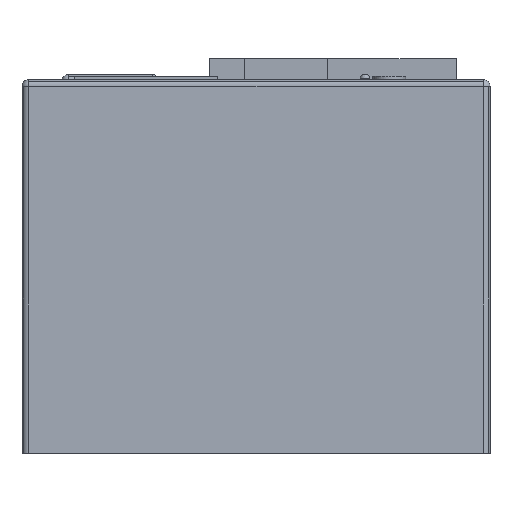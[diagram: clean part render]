
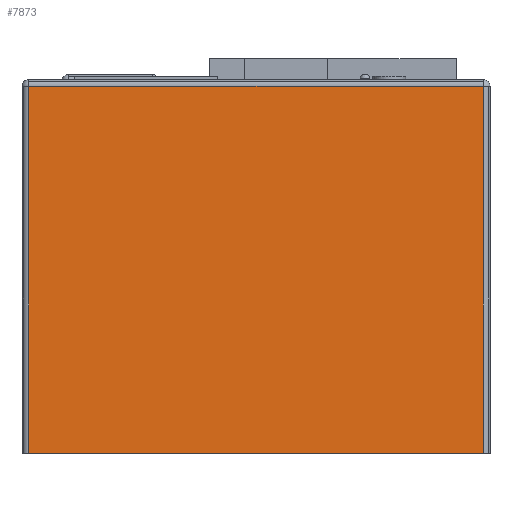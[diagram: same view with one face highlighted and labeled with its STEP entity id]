
A CAD part, front view. The second image highlights one B-rep face of the part: STEP entity #7873.
In plain terms, the highlighted planar face has unit normal (0, -1, 0.018).
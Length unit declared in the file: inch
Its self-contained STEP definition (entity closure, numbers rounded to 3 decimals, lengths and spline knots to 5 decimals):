
#19=CARTESIAN_POINT('',(2.65748,-0.96559,0.));
#24=DIRECTION('',(0.,-0.018,-1.));
#25=VECTOR('',#24,4.29155);
#26=CARTESIAN_POINT('',(2.65748,-0.88638,4.29082));
#27=LINE('',#26,#25);
#28=DIRECTION('',(1.,0.,0.));
#29=VECTOR('',#28,5.31496);
#30=CARTESIAN_POINT('',(-2.65748,-0.88638,4.29082));
#31=LINE('',#30,#29);
#32=DIRECTION('',(0.,0.018,1.));
#33=VECTOR('',#32,4.29155);
#34=CARTESIAN_POINT('',(-2.65748,-0.96559,0.));
#35=LINE('',#34,#33);
#2927=DIRECTION('',(-1.,0.,0.));
#2928=VECTOR('',#2927,5.31496);
#2929=CARTESIAN_POINT('',(2.65748,-0.96559,0.));
#2930=LINE('',#2929,#2928);
#3030=VERTEX_POINT('',#19);
#3031=CARTESIAN_POINT('',(2.65748,-0.88638,
4.29082));
#3032=VERTEX_POINT('',#3031);
#3037=CARTESIAN_POINT('',(-2.65748,-0.88638,
4.29082));
#3038=VERTEX_POINT('',#3037);
#3043=CARTESIAN_POINT('',(-2.65748,-0.96559,0.));
#3044=VERTEX_POINT('',#3043);
#7861=CARTESIAN_POINT('',(0.,-0.92598,2.14541));
#7862=DIRECTION('',(0.,1.,-0.018));
#7863=DIRECTION('',(0.,0.018,1.));
#7864=AXIS2_PLACEMENT_3D('',#7861,#7862,#7863);
#7865=PLANE('',#7864);
#7866=ORIENTED_EDGE('',*,*,#3982,.T.);
#7867=ORIENTED_EDGE('',*,*,#3966,.T.);
#7868=ORIENTED_EDGE('',*,*,#3950,.T.);
#7870=ORIENTED_EDGE('',*,*,#7869,.T.);
#7871=EDGE_LOOP('',(#7866,#7867,#7868,#7870));
#7872=FACE_OUTER_BOUND('',#7871,.F.);
#7873=ADVANCED_FACE('',(#7872),#7865,.F.);
#3950=EDGE_CURVE('',#3032,#3030,#27,.T.);
#3966=EDGE_CURVE('',#3038,#3032,#31,.T.);
#3982=EDGE_CURVE('',#3044,#3038,#35,.T.);
#7869=EDGE_CURVE('',#3030,#3044,#2930,.T.);
